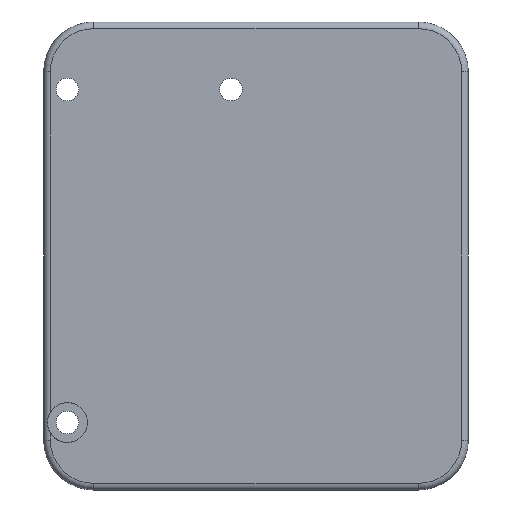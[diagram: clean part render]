
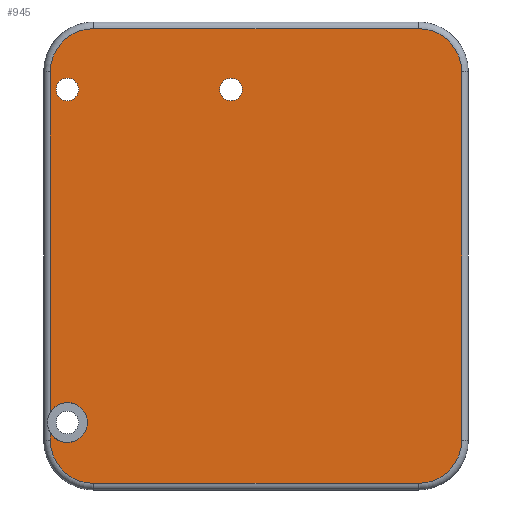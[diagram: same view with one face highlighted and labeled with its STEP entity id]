
A CAD part, front view. The second image highlights one B-rep face of the part: STEP entity #945.
In plain terms, the highlighted planar face has unit normal (0, -1, 0).
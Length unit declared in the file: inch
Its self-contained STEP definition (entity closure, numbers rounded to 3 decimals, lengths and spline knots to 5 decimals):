
#21=FACE_BOUND('',#324,.T.);
#22=FACE_BOUND('',#325,.T.);
#45=PLANE('',#1080);
#82=LINE('',#1585,#147);
#84=LINE('',#1597,#149);
#85=LINE('',#1621,#150);
#87=LINE('',#1625,#152);
#89=LINE('',#1634,#154);
#147=VECTOR('',#1261,0.3937);
#149=VECTOR('',#1275,0.3937);
#150=VECTOR('',#1286,0.3937);
#152=VECTOR('',#1290,0.3937);
#154=VECTOR('',#1302,0.3937);
#260=FACE_OUTER_BOUND('',#323,.T.);
#323=EDGE_LOOP('',(#869,#870,#871,#872,#873,#874,#875,#876,#877,#878));
#324=EDGE_LOOP('',(#879));
#325=EDGE_LOOP('',(#880));
#365=CIRCLE('',#1026,0.26);
#371=CIRCLE('',#1034,0.26);
#375=CIRCLE('',#1040,0.26);
#379=CIRCLE('',#1046,0.26);
#382=CIRCLE('',#1055,0.12);
#388=CIRCLE('',#1068,0.0675);
#390=CIRCLE('',#1071,0.0675);
#440=VERTEX_POINT('',#1573);
#441=VERTEX_POINT('',#1575);
#443=VERTEX_POINT('',#1581);
#445=VERTEX_POINT('',#1587);
#447=VERTEX_POINT('',#1593);
#449=VERTEX_POINT('',#1599);
#451=VERTEX_POINT('',#1605);
#453=VERTEX_POINT('',#1613);
#454=VERTEX_POINT('',#1620);
#456=VERTEX_POINT('',#1627);
#469=VERTEX_POINT('',#1680);
#471=VERTEX_POINT('',#1686);
#550=EDGE_CURVE('',#440,#441,#365,.T.);
#555=EDGE_CURVE('',#441,#443,#82,.T.);
#558=EDGE_CURVE('',#443,#445,#371,.T.);
#561=EDGE_CURVE('',#445,#447,#84,.T.);
#564=EDGE_CURVE('',#447,#449,#375,.T.);
#567=EDGE_CURVE('',#453,#454,#85,.T.);
#570=EDGE_CURVE('',#449,#451,#87,.T.);
#573=EDGE_CURVE('',#454,#456,#379,.T.);
#575=EDGE_CURVE('',#456,#440,#89,.T.);
#585=EDGE_CURVE('',#453,#451,#382,.T.);
#598=EDGE_CURVE('',#469,#469,#388,.T.);
#601=EDGE_CURVE('',#471,#471,#390,.T.);
#869=ORIENTED_EDGE('',*,*,#567,.F.);
#870=ORIENTED_EDGE('',*,*,#585,.T.);
#871=ORIENTED_EDGE('',*,*,#570,.F.);
#872=ORIENTED_EDGE('',*,*,#564,.F.);
#873=ORIENTED_EDGE('',*,*,#561,.F.);
#874=ORIENTED_EDGE('',*,*,#558,.F.);
#875=ORIENTED_EDGE('',*,*,#555,.F.);
#876=ORIENTED_EDGE('',*,*,#550,.F.);
#877=ORIENTED_EDGE('',*,*,#575,.F.);
#878=ORIENTED_EDGE('',*,*,#573,.F.);
#879=ORIENTED_EDGE('',*,*,#598,.T.);
#880=ORIENTED_EDGE('',*,*,#601,.T.);
#945=ADVANCED_FACE('',(#260,#21,#22),#45,.F.);
#1026=AXIS2_PLACEMENT_3D('',#1576,#1250,#1251);
#1034=AXIS2_PLACEMENT_3D('',#1591,#1268,#1269);
#1040=AXIS2_PLACEMENT_3D('',#1603,#1282,#1283);
#1046=AXIS2_PLACEMENT_3D('',#1631,#1297,#1298);
#1055=AXIS2_PLACEMENT_3D('',#1654,#1324,#1325);
#1068=AXIS2_PLACEMENT_3D('',#1681,#1357,#1358);
#1071=AXIS2_PLACEMENT_3D('',#1687,#1364,#1365);
#1080=AXIS2_PLACEMENT_3D('',#1706,#1388,#1389);
#1250=DIRECTION('center_axis',(0.,1.,0.));
#1251=DIRECTION('ref_axis',(0.707,0.,0.707));
#1261=DIRECTION('',(0.,0.,-1.));
#1268=DIRECTION('center_axis',(0.,1.,0.));
#1269=DIRECTION('ref_axis',(0.707,0.,-0.707));
#1275=DIRECTION('',(-1.,0.,0.));
#1282=DIRECTION('center_axis',(0.,1.,0.));
#1283=DIRECTION('ref_axis',(-0.707,0.,-0.707));
#1286=DIRECTION('',(0.,0.,1.));
#1290=DIRECTION('',(0.,0.,1.));
#1297=DIRECTION('center_axis',(0.,1.,0.));
#1298=DIRECTION('ref_axis',(-0.707,0.,0.707));
#1302=DIRECTION('',(1.,0.,0.));
#1324=DIRECTION('center_axis',(0.,1.,0.));
#1325=DIRECTION('ref_axis',(1.,0.,0.));
#1357=DIRECTION('center_axis',(0.,1.,0.));
#1358=DIRECTION('ref_axis',(1.,0.,0.));
#1364=DIRECTION('center_axis',(0.,1.,0.));
#1365=DIRECTION('ref_axis',(1.,0.,0.));
#1388=DIRECTION('center_axis',(0.,1.,0.));
#1389=DIRECTION('ref_axis',(1.,0.,0.));
#1573=CARTESIAN_POINT('',(1.47,0.,1.595));
#1575=CARTESIAN_POINT('',(1.73,0.,1.335));
#1576=CARTESIAN_POINT('Origin',(1.47,0.,1.335));
#1581=CARTESIAN_POINT('',(1.73,0.,-0.875));
#1585=CARTESIAN_POINT('',(1.73,0.,0.7825));
#1587=CARTESIAN_POINT('',(1.47,0.,-1.135));
#1591=CARTESIAN_POINT('Origin',(1.47,0.,-0.875));
#1593=CARTESIAN_POINT('',(-0.48,0.,-1.135));
#1597=CARTESIAN_POINT('',(0.9825,0.,-1.135));
#1599=CARTESIAN_POINT('',(-0.74,0.,-0.875));
#1603=CARTESIAN_POINT('Origin',(-0.48,0.,-0.875));
#1605=CARTESIAN_POINT('',(-0.74,0.,-0.8324));
#1613=CARTESIAN_POINT('',(-0.74,0.,-0.7076));
#1620=CARTESIAN_POINT('',(-0.74,0.,1.335));
#1621=CARTESIAN_POINT('',(-0.74,0.,-0.3225));
#1625=CARTESIAN_POINT('',(-0.74,0.,-0.3225));
#1627=CARTESIAN_POINT('',(-0.48,0.,1.595));
#1631=CARTESIAN_POINT('Origin',(-0.48,0.,1.335));
#1634=CARTESIAN_POINT('',(0.0075,0.,1.595));
#1654=CARTESIAN_POINT('Origin',(-0.6375,0.,-0.77));
#1680=CARTESIAN_POINT('',(-0.705,0.,1.23));
#1681=CARTESIAN_POINT('Origin',(-0.6375,0.,1.23));
#1686=CARTESIAN_POINT('',(0.2775,0.,1.23));
#1687=CARTESIAN_POINT('Origin',(0.345,0.,1.23));
#1706=CARTESIAN_POINT('Origin',(0.495,0.,0.23));
